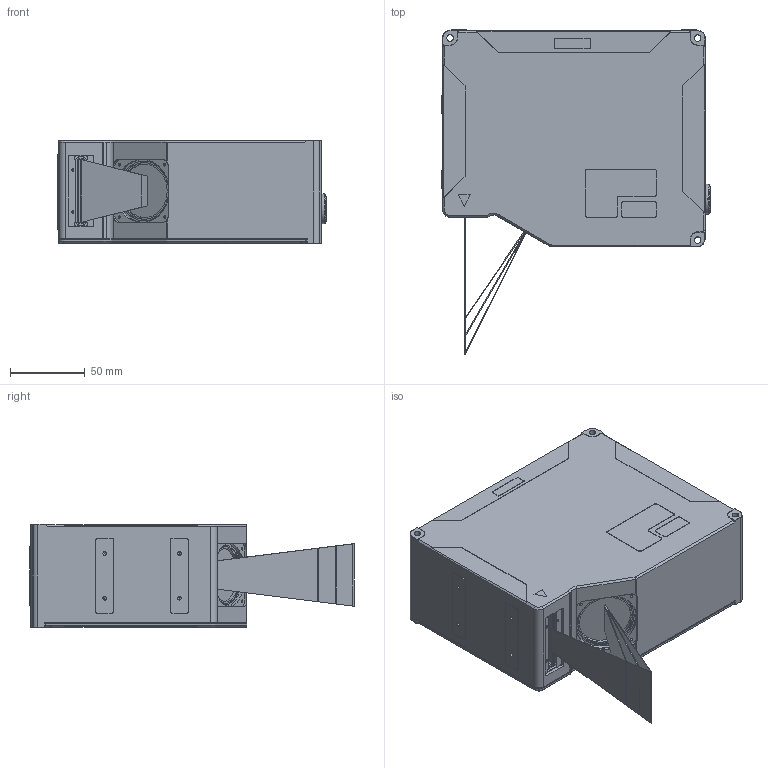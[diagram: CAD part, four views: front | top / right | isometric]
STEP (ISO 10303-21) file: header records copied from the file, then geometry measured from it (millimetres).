
FILE_DESCRIPTION (( 'STEP AP203' ), '1' );
FILE_NAME ('SR9060-02-01軞蚾芞.STEP', '2023-01-31T08:42:21', ( '' ), ( '' ), 'SwSTEP 2.0', 'SolidWorks 2020', '' );
FILE_SCHEMA (( 'CONFIG_CONTROL_DESIGN' ));
Length unit declared in the file: millimetre
Products named in the file (6): SR9060-02-01嫖繚尨砩; SR9060-02-01裔啣; A01PORT9000-V1_0_STP0302; SR9000-01-01黑輸; SR9060-02-01菁釱; SR9060-02-01軞蚾芞
Assembly tree (8 placements, depth 2):
  SR9060-02-01軞蚾芞
    SR9060-02-01菁釱
    SR9060-02-01裔啣
    A01PORT9000-V1_0_STP0302
    SR9000-01-01黑輸  x4
    SR9060-02-01嫖繚尨砩
Bounding box: 179.8 x 217.58 x 69.4 mm (x, y, z)
Volume: 385643.1 mm3; surface area: 229643.6 mm2
Topology: 7 solids, 664 shells, 2921 faces, 9792 edges, 7667 vertices
Faces by surface type: plane 1853, cylinder 605, bspline 265, cone 198
Entity records: 134092 total; most frequent: CARTESIAN_POINT 50755, DIRECTION 15872, ORIENTED_EDGE 15095, EDGE_CURVE 9666, VERTEX_POINT 7643, VECTOR 5610, LINE 5610, AXIS2_PLACEMENT_3D 5131
